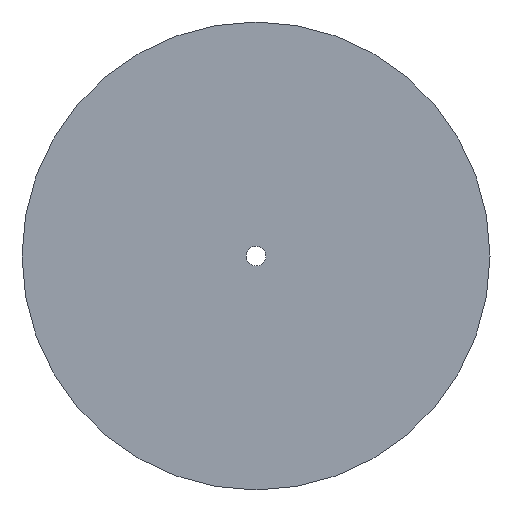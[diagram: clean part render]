
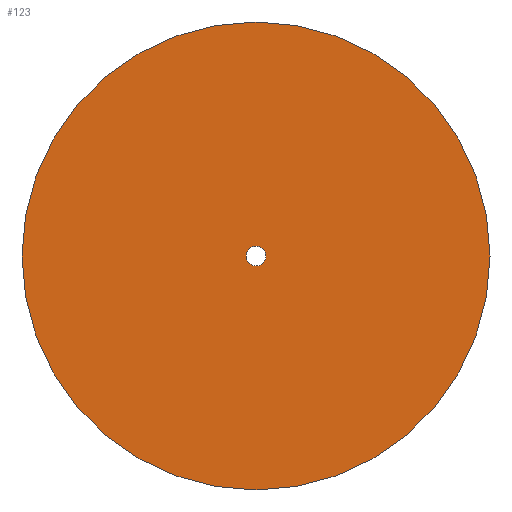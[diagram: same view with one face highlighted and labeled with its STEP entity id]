
A CAD part, top view. The second image highlights one B-rep face of the part: STEP entity #123.
In plain terms, the highlighted planar face has unit normal (0, 0, 1).
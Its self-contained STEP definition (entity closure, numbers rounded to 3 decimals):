
#62=CARTESIAN_POINT('Vertex',(-2.852,1.558,0.)) ;
#76=CARTESIAN_POINT('Vertex',(2.852,-1.558,0.)) ;
#79=CARTESIAN_POINT('Axis2P3D Location',(0.,0.,0.)) ;
#91=CARTESIAN_POINT('Axis2P3D Location',(0.,0.,0.)) ;
#96=CARTESIAN_POINT('Axis2P3D Location',(0.,0.,0.)) ;
#100=CARTESIAN_POINT('Vertex',(77.,0.,0.)) ;
#102=CARTESIAN_POINT('Vertex',(-77.,0.,0.)) ;
#105=CARTESIAN_POINT('Axis2P3D Location',(0.,0.,0.)) ;
#114=CARTESIAN_POINT('Axis2P3D Location',(0.,0.,0.)) ;
#80=DIRECTION('Axis2P3D Direction',(0.,-0.,-1.)) ;
#92=DIRECTION('Axis2P3D Direction',(0.,0.,1.)) ;
#93=DIRECTION('Axis2P3D XDirection',(1.,0.,0.)) ;
#97=DIRECTION('Axis2P3D Direction',(0.,0.,1.)) ;
#106=DIRECTION('Axis2P3D Direction',(0.,0.,1.)) ;
#115=DIRECTION('Axis2P3D Direction',(0.,0.,1.)) ;
#81=AXIS2_PLACEMENT_3D('Circle Axis2P3D',#79,#80,$) ;
#94=AXIS2_PLACEMENT_3D('Plane Axis2P3D',#91,#92,#93) ;
#98=AXIS2_PLACEMENT_3D('Circle Axis2P3D',#96,#97,$) ;
#107=AXIS2_PLACEMENT_3D('Circle Axis2P3D',#105,#106,$) ;
#116=AXIS2_PLACEMENT_3D('Circle Axis2P3D',#114,#115,$) ;
#111=ORIENTED_EDGE('',*,*,#104,.F.) ;
#112=ORIENTED_EDGE('',*,*,#109,.F.) ;
#120=ORIENTED_EDGE('',*,*,#118,.F.) ;
#121=ORIENTED_EDGE('',*,*,#83,.F.) ;
#122=FACE_BOUND('',#119,.T.) ;
#123=ADVANCED_FACE('PartBody',(#113,#122),#95,.T.) ;
#82=CIRCLE('generated circle',#81,3.25) ;
#99=CIRCLE('generated circle',#98,77.) ;
#108=CIRCLE('generated circle',#107,77.) ;
#117=CIRCLE('generated circle',#116,3.25) ;
#83=EDGE_CURVE('',#77,#63,#82,.F.) ;
#104=EDGE_CURVE('',#101,#103,#99,.F.) ;
#109=EDGE_CURVE('',#103,#101,#108,.F.) ;
#118=EDGE_CURVE('',#63,#77,#117,.T.) ;
#110=EDGE_LOOP('',(#111,#112)) ;
#119=EDGE_LOOP('',(#120,#121)) ;
#113=FACE_OUTER_BOUND('',#110,.T.) ;
#95=PLANE('',#94) ;
#63=VERTEX_POINT('',#62) ;
#77=VERTEX_POINT('',#76) ;
#101=VERTEX_POINT('',#100) ;
#103=VERTEX_POINT('',#102) ;
